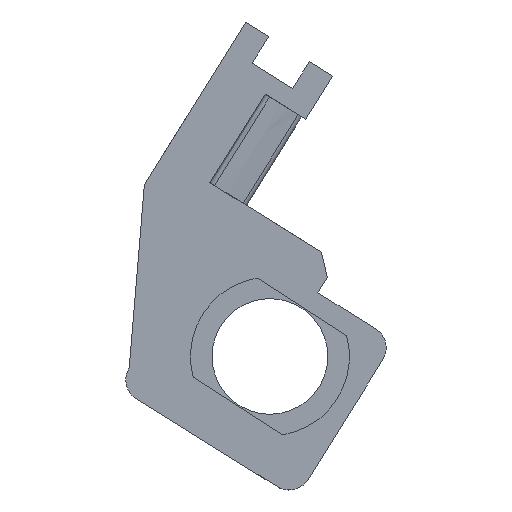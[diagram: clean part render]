
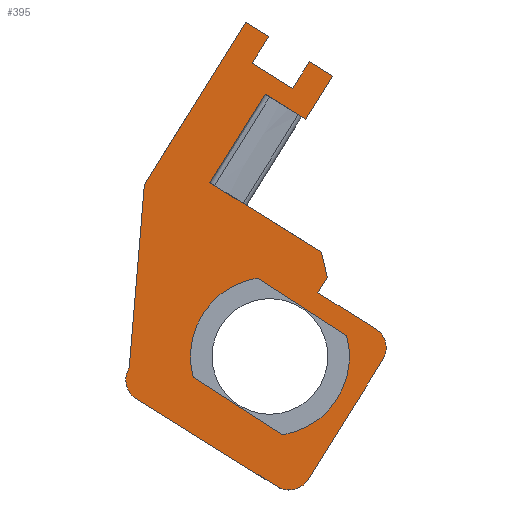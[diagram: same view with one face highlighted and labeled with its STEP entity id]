
A CAD part, front view. The second image highlights one B-rep face of the part: STEP entity #395.
In plain terms, the highlighted planar face has unit normal (0, -1, 0).
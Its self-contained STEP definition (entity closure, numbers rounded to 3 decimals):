
#148=AXIS2_PLACEMENT_3D('Circle Axis2P3D',#146,#147,$) ;
#203=AXIS2_PLACEMENT_3D('Circle Axis2P3D',#201,#202,$) ;
#233=AXIS2_PLACEMENT_3D('Plane Axis2P3D',#230,#231,#232) ;
#237=AXIS2_PLACEMENT_3D('Circle Axis2P3D',#235,#236,$) ;
#253=AXIS2_PLACEMENT_3D('Circle Axis2P3D',#251,#252,$) ;
#358=AXIS2_PLACEMENT_3D('Circle Axis2P3D',#356,#357,$) ;
#143=CARTESIAN_POINT('Vertex',(-171.112,-1324.83,333.924)) ;
#146=CARTESIAN_POINT('Axis2P3D Location',(-171.673,-1324.83,337.378)) ;
#150=CARTESIAN_POINT('Vertex',(-168.295,-1324.83,338.295)) ;
#174=CARTESIAN_POINT('Vertex',(-175.051,-1324.83,336.462)) ;
#177=CARTESIAN_POINT('Line Origine',(-173.081,-1324.83,335.193)) ;
#198=CARTESIAN_POINT('Vertex',(-172.234,-1324.83,340.833)) ;
#201=CARTESIAN_POINT('Axis2P3D Location',(-171.673,-1324.83,337.378)) ;
#218=CARTESIAN_POINT('Line Origine',(-170.264,-1324.83,339.564)) ;
#230=CARTESIAN_POINT('Axis2P3D Location',(-172.751,-1324.83,339.24)) ;
#235=CARTESIAN_POINT('Axis2P3D Location',(-170.829,-1324.83,332.493)) ;
#239=CARTESIAN_POINT('Vertex',(-169.981,-1324.83,331.964)) ;
#241=CARTESIAN_POINT('Vertex',(-171.358,-1324.83,331.644)) ;
#244=CARTESIAN_POINT('Line Origine',(-168.341,-1324.83,334.595)) ;
#248=CARTESIAN_POINT('Vertex',(-166.701,-1324.83,337.226)) ;
#251=CARTESIAN_POINT('Axis2P3D Location',(-167.55,-1324.83,337.754)) ;
#255=CARTESIAN_POINT('Vertex',(-167.021,-1324.83,338.603)) ;
#258=CARTESIAN_POINT('Line Origine',(-168.294,-1324.83,339.397)) ;
#262=CARTESIAN_POINT('Vertex',(-169.567,-1324.83,340.19)) ;
#265=CARTESIAN_POINT('Line Origine',(-169.355,-1324.83,340.529)) ;
#269=CARTESIAN_POINT('Vertex',(-169.144,-1324.83,340.869)) ;
#272=CARTESIAN_POINT('Line Origine',(-169.272,-1324.83,341.42)) ;
#276=CARTESIAN_POINT('Vertex',(-169.399,-1324.83,341.971)) ;
#279=CARTESIAN_POINT('Line Origine',(-171.861,-1324.83,343.505)) ;
#283=CARTESIAN_POINT('Vertex',(-174.322,-1324.83,345.039)) ;
#286=CARTESIAN_POINT('Line Origine',(-173.105,-1324.83,346.991)) ;
#290=CARTESIAN_POINT('Vertex',(-171.889,-1324.83,348.942)) ;
#293=CARTESIAN_POINT('Line Origine',(-170.998,-1324.83,348.387)) ;
#297=CARTESIAN_POINT('Vertex',(-170.107,-1324.83,347.832)) ;
#300=CARTESIAN_POINT('Line Origine',(-169.513,-1324.83,348.784)) ;
#304=CARTESIAN_POINT('Vertex',(-168.92,-1324.83,349.736)) ;
#307=CARTESIAN_POINT('Line Origine',(-169.429,-1324.83,350.053)) ;
#311=CARTESIAN_POINT('Vertex',(-169.938,-1324.83,350.371)) ;
#314=CARTESIAN_POINT('Line Origine',(-170.308,-1324.83,349.776)) ;
#318=CARTESIAN_POINT('Vertex',(-170.679,-1324.83,349.182)) ;
#321=CARTESIAN_POINT('Line Origine',(-171.57,-1324.83,349.738)) ;
#325=CARTESIAN_POINT('Vertex',(-172.461,-1324.83,350.293)) ;
#328=CARTESIAN_POINT('Line Origine',(-172.091,-1324.83,350.887)) ;
#332=CARTESIAN_POINT('Vertex',(-171.72,-1324.83,351.481)) ;
#335=CARTESIAN_POINT('Line Origine',(-172.229,-1324.83,351.799)) ;
#339=CARTESIAN_POINT('Vertex',(-172.739,-1324.83,352.116)) ;
#342=CARTESIAN_POINT('Line Origine',(-174.972,-1324.83,348.533)) ;
#346=CARTESIAN_POINT('Vertex',(-177.205,-1324.83,344.95)) ;
#349=CARTESIAN_POINT('Line Origine',(-177.539,-1324.83,340.917)) ;
#353=CARTESIAN_POINT('Vertex',(-177.873,-1324.83,336.883)) ;
#356=CARTESIAN_POINT('Axis2P3D Location',(-177.024,-1324.83,336.354)) ;
#360=CARTESIAN_POINT('Vertex',(-177.553,-1324.83,335.505)) ;
#363=CARTESIAN_POINT('Line Origine',(-174.456,-1324.83,333.575)) ;
#147=DIRECTION('Axis2P3D Direction',(0.,-1.,0.)) ;
#178=DIRECTION('Vector Direction',(0.841,0.,-0.542)) ;
#202=DIRECTION('Axis2P3D Direction',(0.,-1.,0.)) ;
#219=DIRECTION('Vector Direction',(0.841,0.,-0.542)) ;
#231=DIRECTION('Axis2P3D Direction',(0.,-1.,0.)) ;
#232=DIRECTION('Axis2P3D XDirection',(-0.529,0.,-0.849)) ;
#236=DIRECTION('Axis2P3D Direction',(0.,-1.,0.)) ;
#245=DIRECTION('Vector Direction',(-0.529,0.,-0.849)) ;
#252=DIRECTION('Axis2P3D Direction',(0.,-1.,0.)) ;
#259=DIRECTION('Vector Direction',(0.849,0.,-0.529)) ;
#266=DIRECTION('Vector Direction',(0.529,0.,0.849)) ;
#273=DIRECTION('Vector Direction',(0.226,0.,-0.974)) ;
#280=DIRECTION('Vector Direction',(-0.849,0.,0.529)) ;
#287=DIRECTION('Vector Direction',(-0.529,0.,-0.849)) ;
#294=DIRECTION('Vector Direction',(-0.849,0.,0.529)) ;
#301=DIRECTION('Vector Direction',(0.529,0.,0.849)) ;
#308=DIRECTION('Vector Direction',(0.849,0.,-0.529)) ;
#315=DIRECTION('Vector Direction',(0.529,0.,0.849)) ;
#322=DIRECTION('Vector Direction',(0.849,0.,-0.529)) ;
#329=DIRECTION('Vector Direction',(0.529,0.,0.849)) ;
#336=DIRECTION('Vector Direction',(0.849,0.,-0.529)) ;
#343=DIRECTION('Vector Direction',(0.529,0.,0.849)) ;
#350=DIRECTION('Vector Direction',(-0.083,0.,-0.997)) ;
#357=DIRECTION('Axis2P3D Direction',(0.,-1.,0.)) ;
#364=DIRECTION('Vector Direction',(0.849,0.,-0.529)) ;
#179=VECTOR('Line Direction',#178,1.) ;
#220=VECTOR('Line Direction',#219,1.) ;
#246=VECTOR('Line Direction',#245,1.) ;
#260=VECTOR('Line Direction',#259,1.) ;
#267=VECTOR('Line Direction',#266,1.) ;
#274=VECTOR('Line Direction',#273,1.) ;
#281=VECTOR('Line Direction',#280,1.) ;
#288=VECTOR('Line Direction',#287,1.) ;
#295=VECTOR('Line Direction',#294,1.) ;
#302=VECTOR('Line Direction',#301,1.) ;
#309=VECTOR('Line Direction',#308,1.) ;
#316=VECTOR('Line Direction',#315,1.) ;
#323=VECTOR('Line Direction',#322,1.) ;
#330=VECTOR('Line Direction',#329,1.) ;
#337=VECTOR('Line Direction',#336,1.) ;
#344=VECTOR('Line Direction',#343,1.) ;
#351=VECTOR('Line Direction',#350,1.) ;
#365=VECTOR('Line Direction',#364,1.) ;
#369=ORIENTED_EDGE('',*,*,#243,.F.) ;
#370=ORIENTED_EDGE('',*,*,#250,.T.) ;
#371=ORIENTED_EDGE('',*,*,#257,.F.) ;
#372=ORIENTED_EDGE('',*,*,#264,.T.) ;
#373=ORIENTED_EDGE('',*,*,#271,.T.) ;
#374=ORIENTED_EDGE('',*,*,#278,.F.) ;
#375=ORIENTED_EDGE('',*,*,#285,.T.) ;
#376=ORIENTED_EDGE('',*,*,#292,.F.) ;
#377=ORIENTED_EDGE('',*,*,#299,.F.) ;
#378=ORIENTED_EDGE('',*,*,#306,.T.) ;
#379=ORIENTED_EDGE('',*,*,#313,.F.) ;
#380=ORIENTED_EDGE('',*,*,#320,.F.) ;
#381=ORIENTED_EDGE('',*,*,#327,.F.) ;
#382=ORIENTED_EDGE('',*,*,#334,.T.) ;
#383=ORIENTED_EDGE('',*,*,#341,.F.) ;
#384=ORIENTED_EDGE('',*,*,#348,.T.) ;
#385=ORIENTED_EDGE('',*,*,#355,.T.) ;
#386=ORIENTED_EDGE('',*,*,#362,.F.) ;
#387=ORIENTED_EDGE('',*,*,#367,.T.) ;
#390=ORIENTED_EDGE('',*,*,#181,.F.) ;
#391=ORIENTED_EDGE('',*,*,#205,.F.) ;
#392=ORIENTED_EDGE('',*,*,#222,.F.) ;
#393=ORIENTED_EDGE('',*,*,#152,.F.) ;
#394=FACE_BOUND('',#389,.T.) ;
#395=ADVANCED_FACE('Brep With Voids',(#388,#394),#234,.T.) ;
#149=CIRCLE('generated circle',#148,3.5) ;
#204=CIRCLE('generated circle',#203,3.5) ;
#238=CIRCLE('generated circle',#237,1.) ;
#254=CIRCLE('generated circle',#253,1.) ;
#359=CIRCLE('generated circle',#358,1.) ;
#152=EDGE_CURVE('',#144,#151,#149,.T.) ;
#181=EDGE_CURVE('',#175,#144,#180,.T.) ;
#205=EDGE_CURVE('',#199,#175,#204,.T.) ;
#222=EDGE_CURVE('',#151,#199,#221,.F.) ;
#243=EDGE_CURVE('',#240,#242,#238,.F.) ;
#250=EDGE_CURVE('',#240,#249,#247,.F.) ;
#257=EDGE_CURVE('',#256,#249,#254,.F.) ;
#264=EDGE_CURVE('',#256,#263,#261,.F.) ;
#271=EDGE_CURVE('',#263,#270,#268,.T.) ;
#278=EDGE_CURVE('',#277,#270,#275,.T.) ;
#285=EDGE_CURVE('',#277,#284,#282,.T.) ;
#292=EDGE_CURVE('',#291,#284,#289,.T.) ;
#299=EDGE_CURVE('',#298,#291,#296,.T.) ;
#306=EDGE_CURVE('',#298,#305,#303,.T.) ;
#313=EDGE_CURVE('',#312,#305,#310,.T.) ;
#320=EDGE_CURVE('',#319,#312,#317,.T.) ;
#327=EDGE_CURVE('',#326,#319,#324,.T.) ;
#334=EDGE_CURVE('',#326,#333,#331,.T.) ;
#341=EDGE_CURVE('',#340,#333,#338,.T.) ;
#348=EDGE_CURVE('',#340,#347,#345,.F.) ;
#355=EDGE_CURVE('',#347,#354,#352,.T.) ;
#362=EDGE_CURVE('',#361,#354,#359,.F.) ;
#367=EDGE_CURVE('',#361,#242,#366,.T.) ;
#368=EDGE_LOOP('',(#369,#370,#371,#372,#373,#374,#375,#376,#377,#378,#379,#380,#381,#382,#383,#384,#385,#386,#387)) ;
#389=EDGE_LOOP('',(#390,#391,#392,#393)) ;
#388=FACE_OUTER_BOUND('',#368,.T.) ;
#180=LINE('Line',#177,#179) ;
#221=LINE('Line',#218,#220) ;
#247=LINE('Line',#244,#246) ;
#261=LINE('Line',#258,#260) ;
#268=LINE('Line',#265,#267) ;
#275=LINE('Line',#272,#274) ;
#282=LINE('Line',#279,#281) ;
#289=LINE('Line',#286,#288) ;
#296=LINE('Line',#293,#295) ;
#303=LINE('Line',#300,#302) ;
#310=LINE('Line',#307,#309) ;
#317=LINE('Line',#314,#316) ;
#324=LINE('Line',#321,#323) ;
#331=LINE('Line',#328,#330) ;
#338=LINE('Line',#335,#337) ;
#345=LINE('Line',#342,#344) ;
#352=LINE('Line',#349,#351) ;
#366=LINE('Line',#363,#365) ;
#234=PLANE('Plane',#233) ;
#144=VERTEX_POINT('',#143) ;
#151=VERTEX_POINT('',#150) ;
#175=VERTEX_POINT('',#174) ;
#199=VERTEX_POINT('',#198) ;
#240=VERTEX_POINT('',#239) ;
#242=VERTEX_POINT('',#241) ;
#249=VERTEX_POINT('',#248) ;
#256=VERTEX_POINT('',#255) ;
#263=VERTEX_POINT('',#262) ;
#270=VERTEX_POINT('',#269) ;
#277=VERTEX_POINT('',#276) ;
#284=VERTEX_POINT('',#283) ;
#291=VERTEX_POINT('',#290) ;
#298=VERTEX_POINT('',#297) ;
#305=VERTEX_POINT('',#304) ;
#312=VERTEX_POINT('',#311) ;
#319=VERTEX_POINT('',#318) ;
#326=VERTEX_POINT('',#325) ;
#333=VERTEX_POINT('',#332) ;
#340=VERTEX_POINT('',#339) ;
#347=VERTEX_POINT('',#346) ;
#354=VERTEX_POINT('',#353) ;
#361=VERTEX_POINT('',#360) ;
